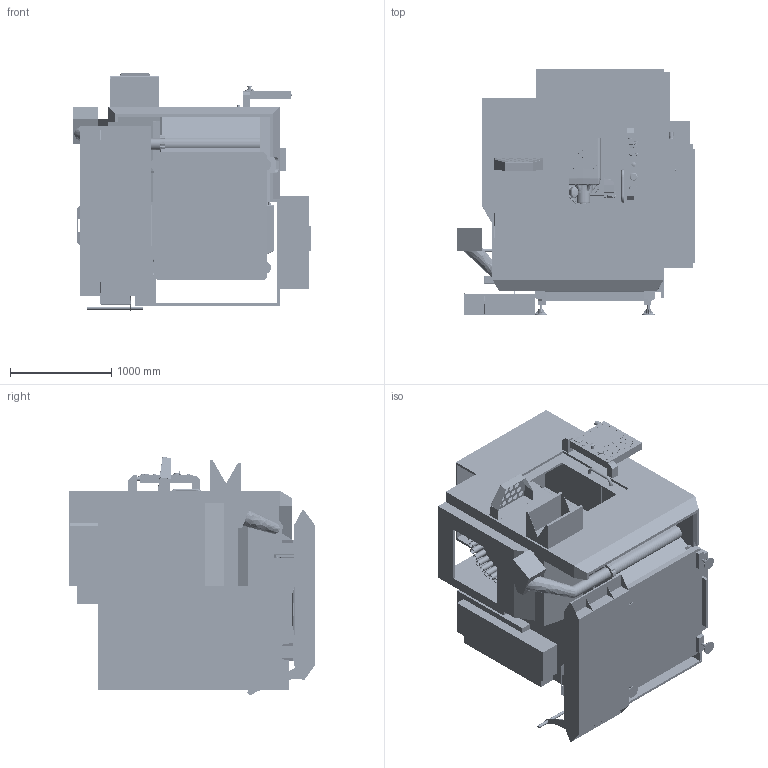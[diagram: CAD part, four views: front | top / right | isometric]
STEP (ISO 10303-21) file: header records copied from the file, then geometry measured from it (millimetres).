
FILE_DESCRIPTION (( 'STEP AP203' ), '1' );
FILE_NAME ('UMC 400_8_2024.STEP', '2024-08-23T19:28:12', ( '' ), ( '' ), 'SwSTEP 2.0', 'SolidWorks 2022', '' );
FILE_SCHEMA (( 'CONFIG_CONTROL_DESIGN' ));
Products named in the file (12): UMC 400 working control pendant; UMC 400 Enclosure; UMC 400 30 +1 Tool Changer Assembly; UMC 400 Platter Assembly; UMC 400 X  Axis; UMC 400_8_2024; UMC 400 Z Axis and Spindle; UMC 400 Leveling Pads; UMC 400 Y Axis; UMC 400 Base Casting; UMC 400 Coolant Tank; UMC 400 Chip Chute
Assembly tree (11 placements, depth 2):
  UMC 400_8_2024
    UMC 400 Base Casting
    UMC 400 Leveling Pads
    UMC 400 X  Axis
    UMC 400 Y Axis
    UMC 400 Z Axis and Spindle
    UMC 400 Platter Assembly
    UMC 400 Coolant Tank
    UMC 400 30 +1 Tool Changer Assembly
    UMC 400 Enclosure
    UMC 400 working control pendant
    UMC 400 Chip Chute
Bounding box: 2341.22 x 2423.32 x 2347.36 mm (x, y, z)
Volume: 2168965886.1 mm3; surface area: 72328240.1 mm2
Topology: 24 solids, 39 shells, 11567 faces, 30391 edges, 19203 vertices
Faces by surface type: plane 5861, cylinder 3111, bspline 1223, cone 685, torus 512, sphere 175
Entity records: 428908 total; most frequent: CARTESIAN_POINT 152467, ORIENTED_EDGE 60230, DIRECTION 53635, EDGE_CURVE 30115, VERTEX_POINT 19197, AXIS2_PLACEMENT_3D 18307, VECTOR 17021, LINE 17021
